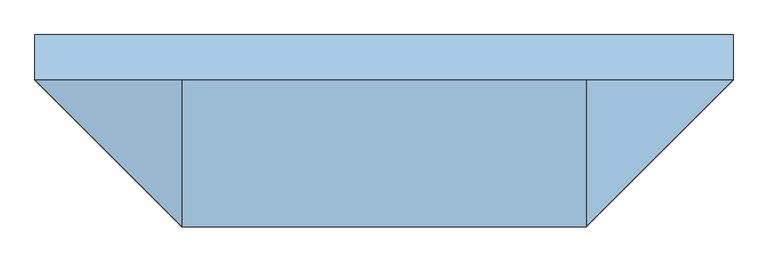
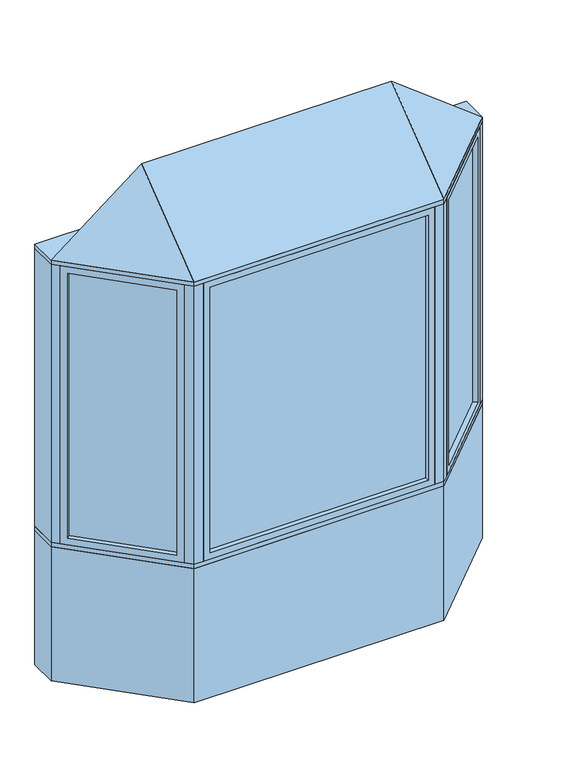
"""IFC4 building model written with IfcOpenShell, lengths in millimetres: window geometry, Pollard_Windows_Tudor Casement Bows and Bays : AML-BAY 45 AFR0616-12-600."""

from ifc_helpers import new_model, si_unit, frame, origin, origin_with_axes, place, context, project, spatial, polyline, outline, extrude, faceted_brep, source, transform, mapped, element, save


def window_cd033d19(model_context):
    return source(origin(), model_context, "Body", "SolidModel", [
        extrude(outline(polyline([(1110.5964271, -104.763169), (714.974814, -500.3847822), (711.3827115, -496.7926797), (1107.0043247, -101.1710666), (1110.5964271, -104.763169)])), frame((0.0, 0.0, 823.1628), z_axis=(0.0, 0.0, 1.0), x_axis=(1.0, 0.0, 0.0)), (0.0, 0.0, 1.0), 1553.6704),
        faceted_brep([(1101.616171, -113.7434252, 835.8628), (1119.5766833, -131.7039374, 835.8628), (1119.5766833, -131.7039374, 2364.1332), (1101.616171, -113.7434252, 2364.1332), (1107.0043247, -101.1710666, 823.1628), (1110.5964271, -104.763169, 823.1628), (1110.5964271, -104.763169, 2376.8332), (1107.0043247, -101.1710666, 2376.8332), (1080.0635563, -92.1908105, 835.8628), (1098.0240686, -110.1513227, 835.8628), (1098.0240686, -110.1513227, 2364.1332), (1080.0635563, -92.1908105, 2364.1332), (1144.9369265, -106.3436941, 799.998), (1105.4237996, -66.8305672, 799.998), (1105.4237996, -66.8305672, 2399.998), (1144.9369265, -106.3436941, 2399.998), (741.9155823, -509.3650383, 2364.1332), (723.9550701, -491.4045261, 2364.1332), (714.974814, -500.3847822, 2376.8332), (711.3827115, -496.7926797, 2376.8332), (720.3629677, -487.8124236, 2364.1332), (702.4024554, -469.8519114, 2364.1332), (677.0422121, -495.2121547, 2399.998), (716.5553391, -534.7252816, 2399.998), (741.9155823, -509.3650383, 835.8628), (723.9550701, -491.4045261, 835.8628), (714.974814, -500.3847822, 823.1628), (711.3827115, -496.7926797, 823.1628), (720.3629677, -487.8124236, 835.8628), (702.4024554, -469.8519114, 835.8628), (677.0422121, -495.2121547, 799.998), (716.5553391, -534.7252816, 799.998)], [[[0, 1, 2, 3]], [[4, 5, 6, 7]], [[8, 9, 10, 11]], [[12, 13, 14, 15]], [[3, 2, 16, 17]], [[7, 6, 18, 19]], [[11, 10, 20, 21]], [[15, 14, 22, 23]], [[17, 16, 24, 25]], [[19, 18, 26, 27]], [[21, 20, 28, 29]], [[23, 22, 30, 31]], [[25, 24, 1, 0]], [[5, 26, 18, 6], [3, 17, 25, 0]], [[27, 26, 5, 4]], [[7, 19, 27, 4], [9, 28, 20, 10]], [[29, 28, 9, 8]], [[13, 30, 22, 14], [11, 21, 29, 8]], [[31, 30, 13, 12]], [[15, 23, 31, 12], [1, 24, 16, 2]]]),
        extrude(outline(polyline([(-714.974814, -500.3847822), (-1110.5964271, -104.763169), (-1107.0043247, -101.1710666), (-711.3827115, -496.7926797), (-714.974814, -500.3847822)])), frame((0.0, 0.0, 823.1628), z_axis=(0.0, 0.0, 1.0), x_axis=(1.0, 0.0, 0.0)), (0.0, 0.0, 1.0), 1553.6704),
        faceted_brep([(-720.3629677, -487.8124236, 2364.1332), (-702.4024554, -469.8519114, 2364.1332), (-702.4024554, -469.8519114, 835.8628), (-720.3629677, -487.8124236, 835.8628), (-714.974814, -500.3847822, 2376.8332), (-711.3827115, -496.7926797, 2376.8332), (-711.3827115, -496.7926797, 823.1628), (-714.974814, -500.3847822, 823.1628), (-741.9155823, -509.3650383, 2364.1332), (-723.9550701, -491.4045261, 2364.1332), (-723.9550701, -491.4045261, 835.8628), (-741.9155823, -509.3650383, 835.8628), (-677.0422121, -495.2121547, 2399.998), (-716.5553391, -534.7252816, 2399.998), (-716.5553391, -534.7252816, 799.998), (-677.0422121, -495.2121547, 799.998), (-1080.0635563, -92.1908105, 835.8628), (-1098.0240686, -110.1513227, 835.8628), (-1107.0043247, -101.1710666, 823.1628), (-1110.5964271, -104.763169, 823.1628), (-1101.616171, -113.7434252, 835.8628), (-1119.5766833, -131.7039374, 835.8628), (-1144.9369265, -106.3436941, 799.998), (-1105.4237996, -66.8305672, 799.998), (-1080.0635563, -92.1908105, 2364.1332), (-1098.0240686, -110.1513227, 2364.1332), (-1107.0043247, -101.1710666, 2376.8332), (-1110.5964271, -104.763169, 2376.8332), (-1101.616171, -113.7434252, 2364.1332), (-1119.5766833, -131.7039374, 2364.1332), (-1144.9369265, -106.3436941, 2399.998), (-1105.4237996, -66.8305672, 2399.998)], [[[0, 1, 2, 3]], [[4, 5, 6, 7]], [[8, 9, 10, 11]], [[12, 13, 14, 15]], [[3, 2, 16, 17]], [[7, 6, 18, 19]], [[11, 10, 20, 21]], [[15, 14, 22, 23]], [[17, 16, 24, 25]], [[19, 18, 26, 27]], [[21, 20, 28, 29]], [[23, 22, 30, 31]], [[15, 23, 31, 12], [1, 24, 16, 2]], [[25, 24, 1, 0]], [[5, 26, 18, 6], [3, 17, 25, 0]], [[27, 26, 5, 4]], [[7, 19, 27, 4], [9, 28, 20, 10]], [[29, 28, 9, 8]], [[13, 30, 22, 14], [11, 21, 29, 8]], [[31, 30, 13, 12]]]),
        extrude(outline(polyline([(608.0352, -544.6806207), (-608.0352, -544.6806207), (-608.0352, -539.6006207), (608.0352, -539.6006207), (608.0352, -544.6806207)])), frame((0.0, 0.0, 823.1628), z_axis=(0.0, 0.0, 1.0), x_axis=(1.0, 0.0, 0.0)), (0.0, 0.0, 1.0), 1553.6704),
        faceted_brep([(595.3352, -544.6806207, 835.8628), (595.3352, -570.0806207, 835.8628), (595.3352, -570.0806207, 2364.1332), (595.3352, -544.6806207, 2364.1332), (608.0352, -539.6006207, 823.1628), (608.0352, -544.6806207, 823.1628), (608.0352, -544.6806207, 2376.8332), (608.0352, -539.6006207, 2376.8332), (595.3352, -514.2006207, 835.8628), (595.3352, -539.6006207, 835.8628), (595.3352, -539.6006207, 2364.1332), (595.3352, -514.2006207, 2364.1332), (631.2, -570.0806207, 799.998), (631.2, -514.2006207, 799.998), (631.2, -514.2006207, 2399.998), (631.2, -570.0806207, 2399.998), (-595.3352, -570.0806207, 2364.1332), (-595.3352, -544.6806207, 2364.1332), (-608.0352, -544.6806207, 2376.8332), (-608.0352, -539.6006207, 2376.8332), (-595.3352, -539.6006207, 2364.1332), (-595.3352, -514.2006207, 2364.1332), (-631.2, -514.2006207, 2399.998), (-631.2, -570.0806207, 2399.998), (-595.3352, -570.0806207, 835.8628), (-595.3352, -544.6806207, 835.8628), (-608.0352, -544.6806207, 823.1628), (-608.0352, -539.6006207, 823.1628), (-595.3352, -539.6006207, 835.8628), (-595.3352, -514.2006207, 835.8628), (-631.2, -514.2006207, 799.998), (-631.2, -570.0806207, 799.998)], [[[0, 1, 2, 3]], [[4, 5, 6, 7]], [[8, 9, 10, 11]], [[12, 13, 14, 15]], [[3, 2, 16, 17]], [[7, 6, 18, 19]], [[11, 10, 20, 21]], [[15, 14, 22, 23]], [[17, 16, 24, 25]], [[19, 18, 26, 27]], [[21, 20, 28, 29]], [[23, 22, 30, 31]], [[15, 23, 31, 12], [1, 24, 16, 2]], [[25, 24, 1, 0]], [[5, 26, 18, 6], [3, 17, 25, 0]], [[27, 26, 5, 4]], [[7, 19, 27, 4], [9, 28, 20, 10]], [[29, 28, 9, 8]], [[13, 30, 22, 14], [11, 21, 29, 8]], [[31, 30, 13, 12]]]),
        faceted_brep([(1176.5, -74.7806207, 2425.398), (681.2, -570.0806207, 2425.398), (-681.2, -570.0806207, 2425.398), (-1176.5, -74.7806207, 2425.398), (-681.2, -74.7806207, 2806.398), (681.2, -74.7806207, 2806.398)], [[[0, 1, 2, 3]], [[3, 2, 4]], [[2, 1, 5, 4]], [[1, 0, 5]], [[0, 3, 4, 5]]]),
        extrude(outline(polyline([(-1176.5, 77.6193793), (1176.5, 77.6193793), (1176.5, -74.7806207), (681.2, -570.0806207), (-681.2, -570.0806207), (-1176.5, -74.7806207), (-1176.5, 77.6193793)])), frame((0.0, 0.0, 2399.998), z_axis=(0.0, 0.0, 1.0), x_axis=(1.0, 0.0, 0.0)), (0.0, 0.0, 1.0), 25.4),
        extrude(outline(polyline([(-1176.5, -74.7806207), (-1176.5, 77.6193793), (-1113.3738531, 77.6193793), (-1113.3738531, -74.7806207), (-1144.9369265, -106.3436941), (-1176.5, -74.7806207)])), frame((0.0, 0.0, 799.998), z_axis=(0.0, 0.0, 1.0), x_axis=(1.0, 0.0, 0.0)), (0.0, 0.0, 1.0), 1600.0),
        extrude(outline(polyline([(1176.5, 77.6193793), (1176.5, -74.7806207), (1144.9369265, -106.3436941), (1113.3738531, -74.7806207), (1113.3738531, 77.6193793), (1176.5, 77.6193793)])), frame((0.0, 0.0, 799.998), z_axis=(0.0, 0.0, 1.0), x_axis=(1.0, 0.0, 0.0)), (0.0, 0.0, 1.0), 1600.0),
        extrude(outline(polyline([(681.2, -570.0806207), (631.2, -570.0806207), (631.2, -520.0806207), (660.4893219, -520.0806207), (681.2, -499.3699425), (716.5553391, -534.7252816), (681.2, -570.0806207)])), frame((0.0, 0.0, 799.998), z_axis=(0.0, 0.0, 1.0), x_axis=(1.0, 0.0, 0.0)), (0.0, 0.0, 1.0), 1600.0),
        extrude(outline(polyline([(-681.2, -570.0806207), (-716.5553391, -534.7252816), (-681.2, -499.3699425), (-660.4893219, -520.0806207), (-631.2, -520.0806207), (-631.2, -570.0806207), (-681.2, -570.0806207)])), frame((0.0, 0.0, 799.998), z_axis=(0.0, 0.0, 1.0), x_axis=(1.0, 0.0, 0.0)), (0.0, 0.0, 1.0), 1600.0),
        extrude(outline(polyline([(-681.2, -570.0806207), (-1176.5, -74.7806207), (-1176.5, 77.6193793), (-1113.3738531, 77.6193793), (-618.0738531, -417.6806207), (618.0738531, -417.6806207), (1113.3738531, 77.6193793), (1176.5, 77.6193793), (1176.5, -74.7806207), (681.2, -570.0806207), (-681.2, -570.0806207)])), frame((0.0, 0.0, 774.598), z_axis=(0.0, 0.0, 1.0), x_axis=(1.0, 0.0, 0.0)), (0.0, 0.0, 1.0), 25.4),
        extrude(outline(polyline([(-1176.5, -74.7806207), (-1176.5, 77.6193793), (-1113.3738531, 77.6193793), (-618.0738531, -417.6806207), (618.0738531, -417.6806207), (1113.3738531, 77.6193793), (1176.5, 77.6193793), (1176.5, -74.7806207), (681.2, -570.0806207), (-681.2, -570.0806207), (-1176.5, -74.7806207)])), origin_with_axes(), (0.0, 0.0, 1.0), 774.598),
    ])


if __name__ == "__main__":
    model = new_model("IFC4")
    model_context = context("Model", 3, world=origin())
    ifc_project = project(units=[si_unit("LENGTHUNIT", "METRE", prefix="MILLI")], contexts=[model_context])
    site = spatial("IfcSite", under=ifc_project)
    building = spatial("IfcBuilding", under=site)
    placement = place(None, origin())
    window_shape = window_cd033d19(model_context)
    element("IfcWindow", 1, ObjectType="Pollard_Windows_Tudor Casement Bows and Bays : AML-BAY 45 AFR0616-12-600", at=placement, inside=building, context=model_context, shape_type="MappedRepresentation", body=[
        mapped(window_shape, transform((0.0, 0.0, 0.0), x_axis=(1.0, 0.0, 0.0), y_axis=(0.0, 1.0, 0.0), z_axis=(0.0, 0.0, 1.0))),
    ])
    save(model, "model.ifc")
